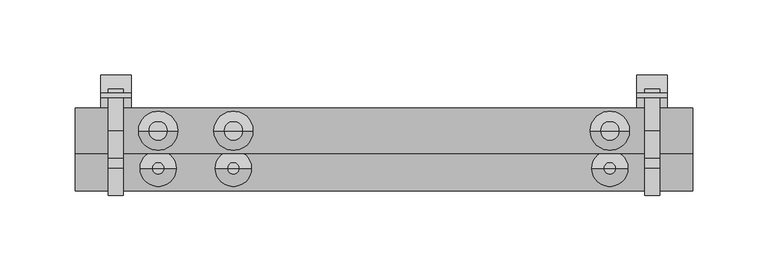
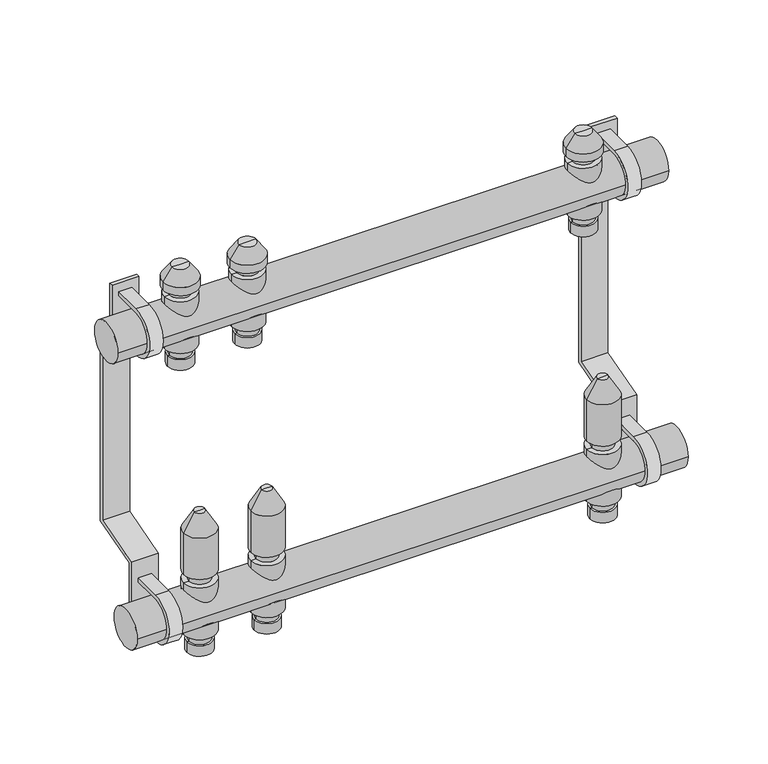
"""IFC4 building model written with IfcOpenShell, lengths in millimetres: valve geometry, PL CZ_Manifold_FT-VA : 07 circuits."""

from ifc_helpers import new_model, si_unit, point, frame, frame_2d, origin, origin_2d, place, context, project, spatial, polyline, circle_curve, trimmed, segment, composite_curve, outline, extrude, source, transform, mapped, element, save
from ifc_brep_helpers import plane_surface, cylinder_surface, revolved_surface, advanced_brep


def valve_f5936556(model_context):
    return source(origin(), model_context, "Body", "SolidModel", [
        advanced_brep(
        [(78.5, 0.0, -35.11267), (97.5, 0.0, -35.11267), (88.0, 0.0, -35.11267), (78.5, 0.0, -27.0369646), (97.5, 0.0, -27.0369646), (80.0, 0.0, -27.0369646), (96.0, 0.0, -27.0369646), (80.0, 0.0, -20.330253), (96.0, 0.0, -20.330253), (76.0, 0.0, -20.330253), (100.0, 0.0, -20.330253), (76.0, 0.0, 20.330253), (100.0, 0.0, 20.330253), (80.0, 0.0, 20.330253), (96.0, 0.0, 20.330253), (80.0, 0.0, 27.0474786), (96.0, 0.0, 27.0474786), (76.0, 0.0, 27.0474786), (100.0, 0.0, 27.0474786), (76.0, 0.0, 59.4084325), (100.0, 0.0, 59.4084325), (84.0, 0.0, 73.264839), (92.0, 0.0, 73.264839), (88.0, 0.0, 73.264839)],
        [
            (0, 1, circle_curve(frame((88.0, 0.0, -35.11267), z_axis=(0.0, 0.0, -1.0), x_axis=(1.0, 0.0, 0.0)), 9.5)),
            (1, 2),
            (2, 0),
            (1, 0, circle_curve(frame((88.0, 0.0, -35.11267), z_axis=(0.0, 0.0, -1.0), x_axis=(1.0, 0.0, 0.0)), 9.5)),
            (3, 4, circle_curve(frame((88.0, 0.0, -27.0369646), z_axis=(0.0, 0.0, -1.0), x_axis=(1.0, 0.0, 0.0)), 9.5)),
            (4, 1),
            (0, 3),
            (4, 3, circle_curve(frame((88.0, 0.0, -27.0369646), z_axis=(0.0, 0.0, -1.0), x_axis=(1.0, 0.0, 0.0)), 9.5)),
            (5, 6, circle_curve(frame((88.0, 0.0, -27.0369646), z_axis=(0.0, 0.0, -1.0), x_axis=(1.0, 0.0, 0.0)), 8.0)),
            (6, 4),
            (3, 5),
            (6, 5, circle_curve(frame((88.0, 0.0, -27.0369646), z_axis=(0.0, 0.0, -1.0), x_axis=(1.0, 0.0, 0.0)), 8.0)),
            (7, 8, circle_curve(frame((88.0, 0.0, -20.330253), z_axis=(0.0, 0.0, -1.0), x_axis=(1.0, 0.0, 0.0)), 8.0)),
            (8, 6),
            (5, 7),
            (8, 7, circle_curve(frame((88.0, 0.0, -20.330253), z_axis=(0.0, 0.0, -1.0), x_axis=(1.0, 0.0, 0.0)), 8.0)),
            (9, 10, circle_curve(frame((88.0, 0.0, -20.330253), z_axis=(0.0, 0.0, -1.0), x_axis=(1.0, 0.0, 0.0)), 12.0)),
            (10, 8),
            (7, 9),
            (10, 9, circle_curve(frame((88.0, 0.0, -20.330253), z_axis=(0.0, 0.0, -1.0), x_axis=(1.0, 0.0, 0.0)), 12.0)),
            (11, 12, circle_curve(frame((88.0, 0.0, 20.330253), z_axis=(0.0, 0.0, -1.0), x_axis=(1.0, 0.0, 0.0)), 12.0)),
            (12, 10),
            (9, 11),
            (12, 11, circle_curve(frame((88.0, 0.0, 20.330253), z_axis=(0.0, 0.0, -1.0), x_axis=(1.0, 0.0, 0.0)), 12.0)),
            (13, 14, circle_curve(frame((88.0, 0.0, 20.330253), z_axis=(0.0, 0.0, -1.0), x_axis=(1.0, 0.0, 0.0)), 8.0)),
            (14, 12),
            (11, 13),
            (14, 13, circle_curve(frame((88.0, 0.0, 20.330253), z_axis=(0.0, 0.0, -1.0), x_axis=(1.0, 0.0, 0.0)), 8.0)),
            (15, 16, circle_curve(frame((88.0, 0.0, 27.0474786), z_axis=(0.0, 0.0, -1.0), x_axis=(1.0, 0.0, 0.0)), 8.0)),
            (16, 14),
            (13, 15),
            (16, 15, circle_curve(frame((88.0, 0.0, 27.0474786), z_axis=(0.0, 0.0, -1.0), x_axis=(1.0, 0.0, 0.0)), 8.0)),
            (17, 18, circle_curve(frame((88.0, 0.0, 27.0474786), z_axis=(0.0, 0.0, -1.0), x_axis=(1.0, 0.0, 0.0)), 12.0)),
            (18, 16),
            (15, 17),
            (18, 17, circle_curve(frame((88.0, 0.0, 27.0474786), z_axis=(0.0, 0.0, -1.0), x_axis=(1.0, 0.0, 0.0)), 12.0)),
            (19, 20, circle_curve(frame((88.0, 0.0, 59.4084325), z_axis=(0.0, 0.0, -1.0), x_axis=(1.0, 0.0, 0.0)), 12.0)),
            (20, 18),
            (17, 19),
            (20, 19, circle_curve(frame((88.0, 0.0, 59.4084325), z_axis=(0.0, 0.0, -1.0), x_axis=(1.0, 0.0, 0.0)), 12.0)),
            (21, 22, circle_curve(frame((88.0, 0.0, 73.264839), z_axis=(0.0, 0.0, -1.0), x_axis=(1.0, 0.0, 0.0)), 4.0)),
            (22, 20),
            (19, 21),
            (22, 21, circle_curve(frame((88.0, 0.0, 73.264839), z_axis=(0.0, 0.0, -1.0), x_axis=(1.0, 0.0, 0.0)), 4.0)),
            (23, 22),
            (21, 23),
        ],
        [
            plane_surface(frame((88.0, 0.0, -35.11267), z_axis=(0.0, 0.0, -1.0), x_axis=(1.0, 0.0, 0.0))),
            cylinder_surface(frame((88.0, 0.0, 58.264839), z_axis=(0.0, 0.0, 1.0), x_axis=(1.0, 0.0, 0.0)), 9.5),
            plane_surface(frame((88.0, 0.0, -27.0369646), z_axis=(0.0, 0.0, 1.0), x_axis=(1.0, 0.0, 0.0))),
            cylinder_surface(frame((88.0, 0.0, 58.264839), z_axis=(0.0, 0.0, 1.0), x_axis=(1.0, 0.0, 0.0)), 8.0),
            plane_surface(frame((88.0, 0.0, -20.330253), z_axis=(0.0, 0.0, -1.0), x_axis=(1.0, 0.0, 0.0))),
            cylinder_surface(frame((88.0, 0.0, 58.264839), z_axis=(0.0, 0.0, 1.0), x_axis=(1.0, 0.0, 0.0)), 12.0),
            plane_surface(frame((88.0, 0.0, 20.330253), z_axis=(0.0, 0.0, 1.0), x_axis=(1.0, 0.0, 0.0))),
            plane_surface(frame((88.0, 0.0, 27.0474786), z_axis=(0.0, 0.0, -1.0), x_axis=(1.0, 0.0, 0.0))),
            revolved_surface(polyline([(100.0, 0.0, 59.4084325), (92.0, 0.0, 73.264839)]), (88.0, 0.0, 58.264839), (0.0, 0.0, 1.0)),
            plane_surface(frame((88.0, 0.0, 73.264839), z_axis=(0.0, 0.0, 1.0), x_axis=(1.0, 0.0, 0.0))),
        ],
        [
            (0, [[1, 2, 3]]),
            (0, [[4, -3, -2]]),
            (1, [[5, 6, -1, 7]]),
            (1, [[8, -7, -4, -6]]),
            (2, [[9, 10, -5, 11]]),
            (2, [[12, -11, -8, -10]]),
            (3, [[13, 14, -9, 15]]),
            (3, [[16, -15, -12, -14]]),
            (4, [[17, 18, -13, 19]]),
            (4, [[20, -19, -16, -18]]),
            (5, [[21, 22, -17, 23]]),
            (5, [[24, -23, -20, -22]]),
            (6, [[25, 26, -21, 27]]),
            (6, [[28, -27, -24, -26]]),
            (3, [[29, 30, -25, 31]]),
            (3, [[32, -31, -28, -30]]),
            (7, [[33, 34, -29, 35]]),
            (7, [[36, -35, -32, -34]]),
            (5, [[37, 38, -33, 39]]),
            (5, [[40, -39, -36, -38]]),
            (8, [[41, 42, -37, 43]]),
            (8, [[44, -43, -40, -42]]),
            (9, [[45, -41, 46]]),
            (9, [[-46, -44, -45]]),
        ],
    ),
        advanced_brep(
        [(78.5, 25.0, 174.88733), (97.5, 25.0, 174.88733), (88.0, 25.0, 174.88733), (78.5, 25.0, 182.9630354), (97.5, 25.0, 182.9630354), (80.0, 25.0, 182.9630354), (96.0, 25.0, 182.9630354), (80.0, 25.0, 189.669747), (96.0, 25.0, 189.669747), (76.0, 25.0, 189.669747), (100.0, 25.0, 189.669747), (76.0, 25.0, 230.330253), (100.0, 25.0, 230.330253), (80.0, 25.0, 230.330253), (96.0, 25.0, 230.330253), (80.0, 25.0, 236.0474786), (96.0, 25.0, 236.0474786), (75.0, 25.0, 236.0474786), (101.0, 25.0, 236.0474786), (75.0, 25.0, 242.337955), (101.0, 25.0, 242.337955), (81.6551779, 25.0, 251.842534), (94.3448221, 25.0, 251.842534), (88.0, 25.0, 251.842534)],
        [
            (0, 1, circle_curve(frame((88.0, 25.0, 174.88733), z_axis=(0.0, 0.0, -1.0), x_axis=(1.0, 0.0, 0.0)), 9.5)),
            (1, 2),
            (2, 0),
            (1, 0, circle_curve(frame((88.0, 25.0, 174.88733), z_axis=(0.0, 0.0, -1.0), x_axis=(1.0, 0.0, 0.0)), 9.5)),
            (3, 4, circle_curve(frame((88.0, 25.0, 182.9630354), z_axis=(0.0, 0.0, -1.0), x_axis=(1.0, 0.0, 0.0)), 9.5)),
            (4, 1),
            (0, 3),
            (4, 3, circle_curve(frame((88.0, 25.0, 182.9630354), z_axis=(0.0, 0.0, -1.0), x_axis=(1.0, 0.0, 0.0)), 9.5)),
            (5, 6, circle_curve(frame((88.0, 25.0, 182.9630354), z_axis=(0.0, 0.0, -1.0), x_axis=(1.0, 0.0, 0.0)), 8.0)),
            (6, 4),
            (3, 5),
            (6, 5, circle_curve(frame((88.0, 25.0, 182.9630354), z_axis=(0.0, 0.0, -1.0), x_axis=(1.0, 0.0, 0.0)), 8.0)),
            (7, 8, circle_curve(frame((88.0, 25.0, 189.669747), z_axis=(0.0, 0.0, -1.0), x_axis=(1.0, 0.0, 0.0)), 8.0)),
            (8, 6),
            (5, 7),
            (8, 7, circle_curve(frame((88.0, 25.0, 189.669747), z_axis=(0.0, 0.0, -1.0), x_axis=(1.0, 0.0, 0.0)), 8.0)),
            (9, 10, circle_curve(frame((88.0, 25.0, 189.669747), z_axis=(0.0, 0.0, -1.0), x_axis=(1.0, 0.0, 0.0)), 12.0)),
            (10, 8),
            (7, 9),
            (10, 9, circle_curve(frame((88.0, 25.0, 189.669747), z_axis=(0.0, 0.0, -1.0), x_axis=(1.0, 0.0, 0.0)), 12.0)),
            (11, 12, circle_curve(frame((88.0, 25.0, 230.330253), z_axis=(0.0, 0.0, -1.0), x_axis=(1.0, 0.0, 0.0)), 12.0)),
            (12, 10),
            (9, 11),
            (12, 11, circle_curve(frame((88.0, 25.0, 230.330253), z_axis=(0.0, 0.0, -1.0), x_axis=(1.0, 0.0, 0.0)), 12.0)),
            (13, 14, circle_curve(frame((88.0, 25.0, 230.330253), z_axis=(0.0, 0.0, -1.0), x_axis=(1.0, 0.0, 0.0)), 8.0)),
            (14, 12),
            (11, 13),
            (14, 13, circle_curve(frame((88.0, 25.0, 230.330253), z_axis=(0.0, 0.0, -1.0), x_axis=(1.0, 0.0, 0.0)), 8.0)),
            (15, 16, circle_curve(frame((88.0, 25.0, 236.0474786), z_axis=(0.0, 0.0, -1.0), x_axis=(1.0, 0.0, 0.0)), 8.0)),
            (16, 14),
            (13, 15),
            (16, 15, circle_curve(frame((88.0, 25.0, 236.0474786), z_axis=(0.0, 0.0, -1.0), x_axis=(1.0, 0.0, 0.0)), 8.0)),
            (17, 18, circle_curve(frame((88.0, 25.0, 236.0474786), z_axis=(0.0, 0.0, -1.0), x_axis=(1.0, 0.0, 0.0)), 13.0)),
            (18, 16),
            (15, 17),
            (18, 17, circle_curve(frame((88.0, 25.0, 236.0474786), z_axis=(0.0, 0.0, -1.0), x_axis=(1.0, 0.0, 0.0)), 13.0)),
            (19, 20, circle_curve(frame((88.0, 25.0, 242.337955), z_axis=(0.0, 0.0, -1.0), x_axis=(1.0, 0.0, 0.0)), 13.0)),
            (20, 18),
            (17, 19),
            (20, 19, circle_curve(frame((88.0, 25.0, 242.337955), z_axis=(0.0, 0.0, -1.0), x_axis=(1.0, 0.0, 0.0)), 13.0)),
            (21, 22, circle_curve(frame((88.0, 25.0, 251.842534), z_axis=(0.0, 0.0, -1.0), x_axis=(1.0, 0.0, 0.0)), 6.3448221)),
            (22, 20),
            (19, 21),
            (22, 21, circle_curve(frame((88.0, 25.0, 251.842534), z_axis=(0.0, 0.0, -1.0), x_axis=(1.0, 0.0, 0.0)), 6.3448221)),
            (23, 22),
            (21, 23),
        ],
        [
            plane_surface(frame((88.0, 25.0, 174.88733), z_axis=(0.0, 0.0, -1.0), x_axis=(1.0, 0.0, 0.0))),
            cylinder_surface(frame((88.0, 25.0, 247.7026565), z_axis=(0.0, 0.0, 1.0), x_axis=(1.0, 0.0, 0.0)), 9.5),
            plane_surface(frame((88.0, 25.0, 182.9630354), z_axis=(0.0, 0.0, 1.0), x_axis=(1.0, 0.0, 0.0))),
            cylinder_surface(frame((88.0, 25.0, 247.7026565), z_axis=(0.0, 0.0, 1.0), x_axis=(1.0, 0.0, 0.0)), 8.0),
            plane_surface(frame((88.0, 25.0, 189.669747), z_axis=(0.0, 0.0, -1.0), x_axis=(1.0, 0.0, 0.0))),
            cylinder_surface(frame((88.0, 25.0, 247.7026565), z_axis=(0.0, 0.0, 1.0), x_axis=(1.0, 0.0, 0.0)), 12.0),
            plane_surface(frame((88.0, 25.0, 230.330253), z_axis=(0.0, 0.0, 1.0), x_axis=(1.0, 0.0, 0.0))),
            plane_surface(frame((88.0, 25.0, 236.0474786), z_axis=(0.0, 0.0, -1.0), x_axis=(1.0, 0.0, 0.0))),
            cylinder_surface(frame((88.0, 25.0, 247.7026565), z_axis=(0.0, 0.0, 1.0), x_axis=(1.0, 0.0, 0.0)), 13.0),
            revolved_surface(polyline([(101.0, 25.0, 242.337955), (94.3448221, 25.0, 251.842534)]), (88.0, 25.0, 247.7026565), (0.0, 0.0, 1.0)),
            plane_surface(frame((88.0, 25.0, 251.842534), z_axis=(0.0, 0.0, 1.0), x_axis=(1.0, 0.0, 0.0))),
        ],
        [
            (0, [[1, 2, 3]]),
            (0, [[4, -3, -2]]),
            (1, [[5, 6, -1, 7]]),
            (1, [[8, -7, -4, -6]]),
            (2, [[9, 10, -5, 11]]),
            (2, [[12, -11, -8, -10]]),
            (3, [[13, 14, -9, 15]]),
            (3, [[16, -15, -12, -14]]),
            (4, [[17, 18, -13, 19]]),
            (4, [[20, -19, -16, -18]]),
            (5, [[21, 22, -17, 23]]),
            (5, [[24, -23, -20, -22]]),
            (6, [[25, 26, -21, 27]]),
            (6, [[28, -27, -24, -26]]),
            (3, [[29, 30, -25, 31]]),
            (3, [[32, -31, -28, -30]]),
            (7, [[33, 34, -29, 35]]),
            (7, [[36, -35, -32, -34]]),
            (8, [[37, 38, -33, 39]]),
            (8, [[40, -39, -36, -38]]),
            (9, [[41, 42, -37, 43]]),
            (9, [[44, -43, -40, -42]]),
            (10, [[45, -41, 46]]),
            (10, [[-46, -44, -45]]),
        ],
    ),
        advanced_brep(
        [(328.5, 0.0, -35.11267), (347.5, 0.0, -35.11267), (338.0, 0.0, -35.11267), (328.5, 0.0, -27.0369646), (347.5, 0.0, -27.0369646), (330.0, 0.0, -27.0369646), (346.0, 0.0, -27.0369646), (330.0, 0.0, -20.330253), (346.0, 0.0, -20.330253), (326.0, 0.0, -20.330253), (350.0, 0.0, -20.330253), (326.0, 0.0, 20.330253), (350.0, 0.0, 20.330253), (330.0, 0.0, 20.330253), (346.0, 0.0, 20.330253), (330.0, 0.0, 27.0474786), (346.0, 0.0, 27.0474786), (326.0, 0.0, 27.0474786), (350.0, 0.0, 27.0474786), (326.0, 0.0, 59.4084325), (350.0, 0.0, 59.4084325), (334.0, 0.0, 73.264839), (342.0, 0.0, 73.264839), (338.0, 0.0, 73.264839)],
        [
            (0, 1, circle_curve(frame((338.0, 0.0, -35.11267), z_axis=(0.0, 0.0, -1.0), x_axis=(1.0, 0.0, 0.0)), 9.5)),
            (1, 2),
            (2, 0),
            (1, 0, circle_curve(frame((338.0, 0.0, -35.11267), z_axis=(0.0, 0.0, -1.0), x_axis=(1.0, 0.0, 0.0)), 9.5)),
            (3, 4, circle_curve(frame((338.0, 0.0, -27.0369646), z_axis=(0.0, 0.0, -1.0), x_axis=(1.0, 0.0, 0.0)), 9.5)),
            (4, 1),
            (0, 3),
            (4, 3, circle_curve(frame((338.0, 0.0, -27.0369646), z_axis=(0.0, 0.0, -1.0), x_axis=(1.0, 0.0, 0.0)), 9.5)),
            (5, 6, circle_curve(frame((338.0, 0.0, -27.0369646), z_axis=(0.0, 0.0, -1.0), x_axis=(1.0, 0.0, 0.0)), 8.0)),
            (6, 4),
            (3, 5),
            (6, 5, circle_curve(frame((338.0, 0.0, -27.0369646), z_axis=(0.0, 0.0, -1.0), x_axis=(1.0, 0.0, 0.0)), 8.0)),
            (7, 8, circle_curve(frame((338.0, 0.0, -20.330253), z_axis=(0.0, 0.0, -1.0), x_axis=(1.0, 0.0, 0.0)), 8.0)),
            (8, 6),
            (5, 7),
            (8, 7, circle_curve(frame((338.0, 0.0, -20.330253), z_axis=(0.0, 0.0, -1.0), x_axis=(1.0, 0.0, 0.0)), 8.0)),
            (9, 10, circle_curve(frame((338.0, 0.0, -20.330253), z_axis=(0.0, 0.0, -1.0), x_axis=(1.0, 0.0, 0.0)), 12.0)),
            (10, 8),
            (7, 9),
            (10, 9, circle_curve(frame((338.0, 0.0, -20.330253), z_axis=(0.0, 0.0, -1.0), x_axis=(1.0, 0.0, 0.0)), 12.0)),
            (11, 12, circle_curve(frame((338.0, 0.0, 20.330253), z_axis=(0.0, 0.0, -1.0), x_axis=(1.0, 0.0, 0.0)), 12.0)),
            (12, 10),
            (9, 11),
            (12, 11, circle_curve(frame((338.0, 0.0, 20.330253), z_axis=(0.0, 0.0, -1.0), x_axis=(1.0, 0.0, 0.0)), 12.0)),
            (13, 14, circle_curve(frame((338.0, 0.0, 20.330253), z_axis=(0.0, 0.0, -1.0), x_axis=(1.0, 0.0, 0.0)), 8.0)),
            (14, 12),
            (11, 13),
            (14, 13, circle_curve(frame((338.0, 0.0, 20.330253), z_axis=(0.0, 0.0, -1.0), x_axis=(1.0, 0.0, 0.0)), 8.0)),
            (15, 16, circle_curve(frame((338.0, 0.0, 27.0474786), z_axis=(0.0, 0.0, -1.0), x_axis=(1.0, 0.0, 0.0)), 8.0)),
            (16, 14),
            (13, 15),
            (16, 15, circle_curve(frame((338.0, 0.0, 27.0474786), z_axis=(0.0, 0.0, -1.0), x_axis=(1.0, 0.0, 0.0)), 8.0)),
            (17, 18, circle_curve(frame((338.0, 0.0, 27.0474786), z_axis=(0.0, 0.0, -1.0), x_axis=(1.0, 0.0, 0.0)), 12.0)),
            (18, 16),
            (15, 17),
            (18, 17, circle_curve(frame((338.0, 0.0, 27.0474786), z_axis=(0.0, 0.0, -1.0), x_axis=(1.0, 0.0, 0.0)), 12.0)),
            (19, 20, circle_curve(frame((338.0, 0.0, 59.4084325), z_axis=(0.0, 0.0, -1.0), x_axis=(1.0, 0.0, 0.0)), 12.0)),
            (20, 18),
            (17, 19),
            (20, 19, circle_curve(frame((338.0, 0.0, 59.4084325), z_axis=(0.0, 0.0, -1.0), x_axis=(1.0, 0.0, 0.0)), 12.0)),
            (21, 22, circle_curve(frame((338.0, 0.0, 73.264839), z_axis=(0.0, 0.0, -1.0), x_axis=(1.0, 0.0, 0.0)), 4.0)),
            (22, 20),
            (19, 21),
            (22, 21, circle_curve(frame((338.0, 0.0, 73.264839), z_axis=(0.0, 0.0, -1.0), x_axis=(1.0, 0.0, 0.0)), 4.0)),
            (23, 22),
            (21, 23),
        ],
        [
            plane_surface(frame((338.0, 0.0, -35.11267), z_axis=(0.0, 0.0, -1.0), x_axis=(1.0, 0.0, 0.0))),
            cylinder_surface(frame((338.0, 0.0, 58.264839), z_axis=(0.0, 0.0, 1.0), x_axis=(1.0, 0.0, 0.0)), 9.5),
            plane_surface(frame((338.0, 0.0, -27.0369646), z_axis=(0.0, 0.0, 1.0), x_axis=(1.0, 0.0, 0.0))),
            cylinder_surface(frame((338.0, 0.0, 58.264839), z_axis=(0.0, 0.0, 1.0), x_axis=(1.0, 0.0, 0.0)), 8.0),
            plane_surface(frame((338.0, 0.0, -20.330253), z_axis=(0.0, 0.0, -1.0), x_axis=(1.0, 0.0, 0.0))),
            cylinder_surface(frame((338.0, 0.0, 58.264839), z_axis=(0.0, 0.0, 1.0), x_axis=(1.0, 0.0, 0.0)), 12.0),
            plane_surface(frame((338.0, 0.0, 20.330253), z_axis=(0.0, 0.0, 1.0), x_axis=(1.0, 0.0, 0.0))),
            plane_surface(frame((338.0, 0.0, 27.0474786), z_axis=(0.0, 0.0, -1.0), x_axis=(1.0, 0.0, 0.0))),
            revolved_surface(polyline([(350.0, 0.0, 59.4084325), (342.0, 0.0, 73.264839)]), (338.0, 0.0, 58.264839), (0.0, 0.0, 1.0)),
            plane_surface(frame((338.0, 0.0, 73.264839), z_axis=(0.0, 0.0, 1.0), x_axis=(1.0, 0.0, 0.0))),
        ],
        [
            (0, [[1, 2, 3]]),
            (0, [[4, -3, -2]]),
            (1, [[5, 6, -1, 7]]),
            (1, [[8, -7, -4, -6]]),
            (2, [[9, 10, -5, 11]]),
            (2, [[12, -11, -8, -10]]),
            (3, [[13, 14, -9, 15]]),
            (3, [[16, -15, -12, -14]]),
            (4, [[17, 18, -13, 19]]),
            (4, [[20, -19, -16, -18]]),
            (5, [[21, 22, -17, 23]]),
            (5, [[24, -23, -20, -22]]),
            (6, [[25, 26, -21, 27]]),
            (6, [[28, -27, -24, -26]]),
            (3, [[29, 30, -25, 31]]),
            (3, [[32, -31, -28, -30]]),
            (7, [[33, 34, -29, 35]]),
            (7, [[36, -35, -32, -34]]),
            (5, [[37, 38, -33, 39]]),
            (5, [[40, -39, -36, -38]]),
            (8, [[41, 42, -37, 43]]),
            (8, [[44, -43, -40, -42]]),
            (9, [[45, -41, 46]]),
            (9, [[-46, -44, -45]]),
        ],
    ),
        advanced_brep(
        [(328.5, 25.0, 174.88733), (347.5, 25.0, 174.88733), (338.0, 25.0, 174.88733), (328.5, 25.0, 182.9630354), (347.5, 25.0, 182.9630354), (330.0, 25.0, 182.9630354), (346.0, 25.0, 182.9630354), (330.0, 25.0, 189.669747), (346.0, 25.0, 189.669747), (326.0, 25.0, 189.669747), (350.0, 25.0, 189.669747), (326.0, 25.0, 230.330253), (350.0, 25.0, 230.330253), (330.0, 25.0, 230.330253), (346.0, 25.0, 230.330253), (330.0, 25.0, 236.0474786), (346.0, 25.0, 236.0474786), (325.0, 25.0, 236.0474786), (351.0, 25.0, 236.0474786), (325.0, 25.0, 242.337955), (351.0, 25.0, 242.337955), (331.6551779, 25.0, 251.842534), (344.3448221, 25.0, 251.842534), (338.0, 25.0, 251.842534)],
        [
            (0, 1, circle_curve(frame((338.0, 25.0, 174.88733), z_axis=(0.0, 0.0, -1.0), x_axis=(1.0, 0.0, 0.0)), 9.5)),
            (1, 2),
            (2, 0),
            (1, 0, circle_curve(frame((338.0, 25.0, 174.88733), z_axis=(0.0, 0.0, -1.0), x_axis=(1.0, 0.0, 0.0)), 9.5)),
            (3, 4, circle_curve(frame((338.0, 25.0, 182.9630354), z_axis=(0.0, 0.0, -1.0), x_axis=(1.0, 0.0, 0.0)), 9.5)),
            (4, 1),
            (0, 3),
            (4, 3, circle_curve(frame((338.0, 25.0, 182.9630354), z_axis=(0.0, 0.0, -1.0), x_axis=(1.0, 0.0, 0.0)), 9.5)),
            (5, 6, circle_curve(frame((338.0, 25.0, 182.9630354), z_axis=(0.0, 0.0, -1.0), x_axis=(1.0, 0.0, 0.0)), 8.0)),
            (6, 4),
            (3, 5),
            (6, 5, circle_curve(frame((338.0, 25.0, 182.9630354), z_axis=(0.0, 0.0, -1.0), x_axis=(1.0, 0.0, 0.0)), 8.0)),
            (7, 8, circle_curve(frame((338.0, 25.0, 189.669747), z_axis=(0.0, 0.0, -1.0), x_axis=(1.0, 0.0, 0.0)), 8.0)),
            (8, 6),
            (5, 7),
            (8, 7, circle_curve(frame((338.0, 25.0, 189.669747), z_axis=(0.0, 0.0, -1.0), x_axis=(1.0, 0.0, 0.0)), 8.0)),
            (9, 10, circle_curve(frame((338.0, 25.0, 189.669747), z_axis=(0.0, 0.0, -1.0), x_axis=(1.0, 0.0, 0.0)), 12.0)),
            (10, 8),
            (7, 9),
            (10, 9, circle_curve(frame((338.0, 25.0, 189.669747), z_axis=(0.0, 0.0, -1.0), x_axis=(1.0, 0.0, 0.0)), 12.0)),
            (11, 12, circle_curve(frame((338.0, 25.0, 230.330253), z_axis=(0.0, 0.0, -1.0), x_axis=(1.0, 0.0, 0.0)), 12.0)),
            (12, 10),
            (9, 11),
            (12, 11, circle_curve(frame((338.0, 25.0, 230.330253), z_axis=(0.0, 0.0, -1.0), x_axis=(1.0, 0.0, 0.0)), 12.0)),
            (13, 14, circle_curve(frame((338.0, 25.0, 230.330253), z_axis=(0.0, 0.0, -1.0), x_axis=(1.0, 0.0, 0.0)), 8.0)),
            (14, 12),
            (11, 13),
            (14, 13, circle_curve(frame((338.0, 25.0, 230.330253), z_axis=(0.0, 0.0, -1.0), x_axis=(1.0, 0.0, 0.0)), 8.0)),
            (15, 16, circle_curve(frame((338.0, 25.0, 236.0474786), z_axis=(0.0, 0.0, -1.0), x_axis=(1.0, 0.0, 0.0)), 8.0)),
            (16, 14),
            (13, 15),
            (16, 15, circle_curve(frame((338.0, 25.0, 236.0474786), z_axis=(0.0, 0.0, -1.0), x_axis=(1.0, 0.0, 0.0)), 8.0)),
            (17, 18, circle_curve(frame((338.0, 25.0, 236.0474786), z_axis=(0.0, 0.0, -1.0), x_axis=(1.0, 0.0, 0.0)), 13.0)),
            (18, 16),
            (15, 17),
            (18, 17, circle_curve(frame((338.0, 25.0, 236.0474786), z_axis=(0.0, 0.0, -1.0), x_axis=(1.0, 0.0, 0.0)), 13.0)),
            (19, 20, circle_curve(frame((338.0, 25.0, 242.337955), z_axis=(0.0, 0.0, -1.0), x_axis=(1.0, 0.0, 0.0)), 13.0)),
            (20, 18),
            (17, 19),
            (20, 19, circle_curve(frame((338.0, 25.0, 242.337955), z_axis=(0.0, 0.0, -1.0), x_axis=(1.0, 0.0, 0.0)), 13.0)),
            (21, 22, circle_curve(frame((338.0, 25.0, 251.842534), z_axis=(0.0, 0.0, -1.0), x_axis=(1.0, 0.0, 0.0)), 6.3448221)),
            (22, 20),
            (19, 21),
            (22, 21, circle_curve(frame((338.0, 25.0, 251.842534), z_axis=(0.0, 0.0, -1.0), x_axis=(1.0, 0.0, 0.0)), 6.3448221)),
            (23, 22),
            (21, 23),
        ],
        [
            plane_surface(frame((338.0, 25.0, 174.88733), z_axis=(0.0, 0.0, -1.0), x_axis=(1.0, 0.0, 0.0))),
            cylinder_surface(frame((338.0, 25.0, 247.7026565), z_axis=(0.0, 0.0, 1.0), x_axis=(1.0, 0.0, 0.0)), 9.5),
            plane_surface(frame((338.0, 25.0, 182.9630354), z_axis=(0.0, 0.0, 1.0), x_axis=(1.0, 0.0, 0.0))),
            cylinder_surface(frame((338.0, 25.0, 247.7026565), z_axis=(0.0, 0.0, 1.0), x_axis=(1.0, 0.0, 0.0)), 8.0),
            plane_surface(frame((338.0, 25.0, 189.669747), z_axis=(0.0, 0.0, -1.0), x_axis=(1.0, 0.0, 0.0))),
            cylinder_surface(frame((338.0, 25.0, 247.7026565), z_axis=(0.0, 0.0, 1.0), x_axis=(1.0, 0.0, 0.0)), 12.0),
            plane_surface(frame((338.0, 25.0, 230.330253), z_axis=(0.0, 0.0, 1.0), x_axis=(1.0, 0.0, 0.0))),
            plane_surface(frame((338.0, 25.0, 236.0474786), z_axis=(0.0, 0.0, -1.0), x_axis=(1.0, 0.0, 0.0))),
            cylinder_surface(frame((338.0, 25.0, 247.7026565), z_axis=(0.0, 0.0, 1.0), x_axis=(1.0, 0.0, 0.0)), 13.0),
            revolved_surface(polyline([(351.0, 25.0, 242.337955), (344.3448221, 25.0, 251.842534)]), (338.0, 25.0, 247.7026565), (0.0, 0.0, 1.0)),
            plane_surface(frame((338.0, 25.0, 251.842534), z_axis=(0.0, 0.0, 1.0), x_axis=(1.0, 0.0, 0.0))),
        ],
        [
            (0, [[1, 2, 3]]),
            (0, [[4, -3, -2]]),
            (1, [[5, 6, -1, 7]]),
            (1, [[8, -7, -4, -6]]),
            (2, [[9, 10, -5, 11]]),
            (2, [[12, -11, -8, -10]]),
            (3, [[13, 14, -9, 15]]),
            (3, [[16, -15, -12, -14]]),
            (4, [[17, 18, -13, 19]]),
            (4, [[20, -19, -16, -18]]),
            (5, [[21, 22, -17, 23]]),
            (5, [[24, -23, -20, -22]]),
            (6, [[25, 26, -21, 27]]),
            (6, [[28, -27, -24, -26]]),
            (3, [[29, 30, -25, 31]]),
            (3, [[32, -31, -28, -30]]),
            (7, [[33, 34, -29, 35]]),
            (7, [[36, -35, -32, -34]]),
            (8, [[37, 38, -33, 39]]),
            (8, [[40, -39, -36, -38]]),
            (9, [[41, 42, -37, 43]]),
            (9, [[44, -43, -40, -42]]),
            (10, [[45, -41, 46]]),
            (10, [[-46, -44, -45]]),
        ],
    ),
        advanced_brep(
        [(28.5, 25.0, 174.88733), (47.5, 25.0, 174.88733), (38.0, 25.0, 174.88733), (28.5, 25.0, 182.9630354), (47.5, 25.0, 182.9630354), (30.0, 25.0, 182.9630354), (46.0, 25.0, 182.9630354), (30.0, 25.0, 189.669747), (46.0, 25.0, 189.669747), (26.0, 25.0, 189.669747), (50.0, 25.0, 189.669747), (26.0, 25.0, 230.330253), (50.0, 25.0, 230.330253), (30.0, 25.0, 230.330253), (46.0, 25.0, 230.330253), (30.0, 25.0, 236.0474786), (46.0, 25.0, 236.0474786), (25.0, 25.0, 236.0474786), (51.0, 25.0, 236.0474786), (25.0, 25.0, 242.337955), (51.0, 25.0, 242.337955), (31.6551779, 25.0, 251.842534), (44.3448221, 25.0, 251.842534), (38.0, 25.0, 251.842534)],
        [
            (0, 1, circle_curve(frame((38.0, 25.0, 174.88733), z_axis=(0.0, 0.0, -1.0), x_axis=(1.0, 0.0, 0.0)), 9.5)),
            (1, 2),
            (2, 0),
            (1, 0, circle_curve(frame((38.0, 25.0, 174.88733), z_axis=(0.0, 0.0, -1.0), x_axis=(1.0, 0.0, 0.0)), 9.5)),
            (3, 4, circle_curve(frame((38.0, 25.0, 182.9630354), z_axis=(0.0, 0.0, -1.0), x_axis=(1.0, 0.0, 0.0)), 9.5)),
            (4, 1),
            (0, 3),
            (4, 3, circle_curve(frame((38.0, 25.0, 182.9630354), z_axis=(0.0, 0.0, -1.0), x_axis=(1.0, 0.0, 0.0)), 9.5)),
            (5, 6, circle_curve(frame((38.0, 25.0, 182.9630354), z_axis=(0.0, 0.0, -1.0), x_axis=(1.0, 0.0, 0.0)), 8.0)),
            (6, 4),
            (3, 5),
            (6, 5, circle_curve(frame((38.0, 25.0, 182.9630354), z_axis=(0.0, 0.0, -1.0), x_axis=(1.0, 0.0, 0.0)), 8.0)),
            (7, 8, circle_curve(frame((38.0, 25.0, 189.669747), z_axis=(0.0, 0.0, -1.0), x_axis=(1.0, 0.0, 0.0)), 8.0)),
            (8, 6),
            (5, 7),
            (8, 7, circle_curve(frame((38.0, 25.0, 189.669747), z_axis=(0.0, 0.0, -1.0), x_axis=(1.0, 0.0, 0.0)), 8.0)),
            (9, 10, circle_curve(frame((38.0, 25.0, 189.669747), z_axis=(0.0, 0.0, -1.0), x_axis=(1.0, 0.0, 0.0)), 12.0)),
            (10, 8),
            (7, 9),
            (10, 9, circle_curve(frame((38.0, 25.0, 189.669747), z_axis=(0.0, 0.0, -1.0), x_axis=(1.0, 0.0, 0.0)), 12.0)),
            (11, 12, circle_curve(frame((38.0, 25.0, 230.330253), z_axis=(0.0, 0.0, -1.0), x_axis=(1.0, 0.0, 0.0)), 12.0)),
            (12, 10),
            (9, 11),
            (12, 11, circle_curve(frame((38.0, 25.0, 230.330253), z_axis=(0.0, 0.0, -1.0), x_axis=(1.0, 0.0, 0.0)), 12.0)),
            (13, 14, circle_curve(frame((38.0, 25.0, 230.330253), z_axis=(0.0, 0.0, -1.0), x_axis=(1.0, 0.0, 0.0)), 8.0)),
            (14, 12),
            (11, 13),
            (14, 13, circle_curve(frame((38.0, 25.0, 230.330253), z_axis=(0.0, 0.0, -1.0), x_axis=(1.0, 0.0, 0.0)), 8.0)),
            (15, 16, circle_curve(frame((38.0, 25.0, 236.0474786), z_axis=(0.0, 0.0, -1.0), x_axis=(1.0, 0.0, 0.0)), 8.0)),
            (16, 14),
            (13, 15),
            (16, 15, circle_curve(frame((38.0, 25.0, 236.0474786), z_axis=(0.0, 0.0, -1.0), x_axis=(1.0, 0.0, 0.0)), 8.0)),
            (17, 18, circle_curve(frame((38.0, 25.0, 236.0474786), z_axis=(0.0, 0.0, -1.0), x_axis=(1.0, 0.0, 0.0)), 13.0)),
            (18, 16),
            (15, 17),
            (18, 17, circle_curve(frame((38.0, 25.0, 236.0474786), z_axis=(0.0, 0.0, -1.0), x_axis=(1.0, 0.0, 0.0)), 13.0)),
            (19, 20, circle_curve(frame((38.0, 25.0, 242.337955), z_axis=(0.0, 0.0, -1.0), x_axis=(1.0, 0.0, 0.0)), 13.0)),
            (20, 18),
            (17, 19),
            (20, 19, circle_curve(frame((38.0, 25.0, 242.337955), z_axis=(0.0, 0.0, -1.0), x_axis=(1.0, 0.0, 0.0)), 13.0)),
            (21, 22, circle_curve(frame((38.0, 25.0, 251.842534), z_axis=(0.0, 0.0, -1.0), x_axis=(1.0, 0.0, 0.0)), 6.3448221)),
            (22, 20),
            (19, 21),
            (22, 21, circle_curve(frame((38.0, 25.0, 251.842534), z_axis=(0.0, 0.0, -1.0), x_axis=(1.0, 0.0, 0.0)), 6.3448221)),
            (23, 22),
            (21, 23),
        ],
        [
            plane_surface(frame((38.0, 25.0, 174.88733), z_axis=(0.0, 0.0, -1.0), x_axis=(1.0, 0.0, 0.0))),
            cylinder_surface(frame((38.0, 25.0, 247.7026565), z_axis=(0.0, 0.0, 1.0), x_axis=(1.0, 0.0, 0.0)), 9.5),
            plane_surface(frame((38.0, 25.0, 182.9630354), z_axis=(0.0, 0.0, 1.0), x_axis=(1.0, 0.0, 0.0))),
            cylinder_surface(frame((38.0, 25.0, 247.7026565), z_axis=(0.0, 0.0, 1.0), x_axis=(1.0, 0.0, 0.0)), 8.0),
            plane_surface(frame((38.0, 25.0, 189.669747), z_axis=(0.0, 0.0, -1.0), x_axis=(1.0, 0.0, 0.0))),
            cylinder_surface(frame((38.0, 25.0, 247.7026565), z_axis=(0.0, 0.0, 1.0), x_axis=(1.0, 0.0, 0.0)), 12.0),
            plane_surface(frame((38.0, 25.0, 230.330253), z_axis=(0.0, 0.0, 1.0), x_axis=(1.0, 0.0, 0.0))),
            plane_surface(frame((38.0, 25.0, 236.0474786), z_axis=(0.0, 0.0, -1.0), x_axis=(1.0, 0.0, 0.0))),
            cylinder_surface(frame((38.0, 25.0, 247.7026565), z_axis=(0.0, 0.0, 1.0), x_axis=(1.0, 0.0, 0.0)), 13.0),
            revolved_surface(polyline([(51.0, 25.0, 242.337955), (44.3448221, 25.0, 251.842534)]), (38.0, 25.0, 247.7026565), (0.0, 0.0, 1.0)),
            plane_surface(frame((38.0, 25.0, 251.842534), z_axis=(0.0, 0.0, 1.0), x_axis=(1.0, 0.0, 0.0))),
        ],
        [
            (0, [[1, 2, 3]]),
            (0, [[4, -3, -2]]),
            (1, [[5, 6, -1, 7]]),
            (1, [[8, -7, -4, -6]]),
            (2, [[9, 10, -5, 11]]),
            (2, [[12, -11, -8, -10]]),
            (3, [[13, 14, -9, 15]]),
            (3, [[16, -15, -12, -14]]),
            (4, [[17, 18, -13, 19]]),
            (4, [[20, -19, -16, -18]]),
            (5, [[21, 22, -17, 23]]),
            (5, [[24, -23, -20, -22]]),
            (6, [[25, 26, -21, 27]]),
            (6, [[28, -27, -24, -26]]),
            (3, [[29, 30, -25, 31]]),
            (3, [[32, -31, -28, -30]]),
            (7, [[33, 34, -29, 35]]),
            (7, [[36, -35, -32, -34]]),
            (8, [[37, 38, -33, 39]]),
            (8, [[40, -39, -36, -38]]),
            (9, [[41, 42, -37, 43]]),
            (9, [[44, -43, -40, -42]]),
            (10, [[45, -41, 46]]),
            (10, [[-46, -44, -45]]),
        ],
    ),
        advanced_brep(
        [(28.5, 0.0, -35.11267), (47.5, 0.0, -35.11267), (38.0, 0.0, -35.11267), (28.5, 0.0, -27.0369646), (47.5, 0.0, -27.0369646), (30.0, 0.0, -27.0369646), (46.0, 0.0, -27.0369646), (30.0, 0.0, -20.330253), (46.0, 0.0, -20.330253), (26.0, 0.0, -20.330253), (50.0, 0.0, -20.330253), (26.0, 0.0, 20.330253), (50.0, 0.0, 20.330253), (30.0, 0.0, 20.330253), (46.0, 0.0, 20.330253), (30.0, 0.0, 27.0474786), (46.0, 0.0, 27.0474786), (26.0, 0.0, 27.0474786), (50.0, 0.0, 27.0474786), (26.0, 0.0, 59.4084325), (50.0, 0.0, 59.4084325), (34.0, 0.0, 73.264839), (42.0, 0.0, 73.264839), (38.0, 0.0, 73.264839)],
        [
            (0, 1, circle_curve(frame((38.0, 0.0, -35.11267), z_axis=(0.0, 0.0, -1.0), x_axis=(1.0, 0.0, 0.0)), 9.5)),
            (1, 2),
            (2, 0),
            (1, 0, circle_curve(frame((38.0, 0.0, -35.11267), z_axis=(0.0, 0.0, -1.0), x_axis=(1.0, 0.0, 0.0)), 9.5)),
            (3, 4, circle_curve(frame((38.0, 0.0, -27.0369646), z_axis=(0.0, 0.0, -1.0), x_axis=(1.0, 0.0, 0.0)), 9.5)),
            (4, 1),
            (0, 3),
            (4, 3, circle_curve(frame((38.0, 0.0, -27.0369646), z_axis=(0.0, 0.0, -1.0), x_axis=(1.0, 0.0, 0.0)), 9.5)),
            (5, 6, circle_curve(frame((38.0, 0.0, -27.0369646), z_axis=(0.0, 0.0, -1.0), x_axis=(1.0, 0.0, 0.0)), 8.0)),
            (6, 4),
            (3, 5),
            (6, 5, circle_curve(frame((38.0, 0.0, -27.0369646), z_axis=(0.0, 0.0, -1.0), x_axis=(1.0, 0.0, 0.0)), 8.0)),
            (7, 8, circle_curve(frame((38.0, 0.0, -20.330253), z_axis=(0.0, 0.0, -1.0), x_axis=(1.0, 0.0, 0.0)), 8.0)),
            (8, 6),
            (5, 7),
            (8, 7, circle_curve(frame((38.0, 0.0, -20.330253), z_axis=(0.0, 0.0, -1.0), x_axis=(1.0, 0.0, 0.0)), 8.0)),
            (9, 10, circle_curve(frame((38.0, 0.0, -20.330253), z_axis=(0.0, 0.0, -1.0), x_axis=(1.0, 0.0, 0.0)), 12.0)),
            (10, 8),
            (7, 9),
            (10, 9, circle_curve(frame((38.0, 0.0, -20.330253), z_axis=(0.0, 0.0, -1.0), x_axis=(1.0, 0.0, 0.0)), 12.0)),
            (11, 12, circle_curve(frame((38.0, 0.0, 20.330253), z_axis=(0.0, 0.0, -1.0), x_axis=(1.0, 0.0, 0.0)), 12.0)),
            (12, 10),
            (9, 11),
            (12, 11, circle_curve(frame((38.0, 0.0, 20.330253), z_axis=(0.0, 0.0, -1.0), x_axis=(1.0, 0.0, 0.0)), 12.0)),
            (13, 14, circle_curve(frame((38.0, 0.0, 20.330253), z_axis=(0.0, 0.0, -1.0), x_axis=(1.0, 0.0, 0.0)), 8.0)),
            (14, 12),
            (11, 13),
            (14, 13, circle_curve(frame((38.0, 0.0, 20.330253), z_axis=(0.0, 0.0, -1.0), x_axis=(1.0, 0.0, 0.0)), 8.0)),
            (15, 16, circle_curve(frame((38.0, 0.0, 27.0474786), z_axis=(0.0, 0.0, -1.0), x_axis=(1.0, 0.0, 0.0)), 8.0)),
            (16, 14),
            (13, 15),
            (16, 15, circle_curve(frame((38.0, 0.0, 27.0474786), z_axis=(0.0, 0.0, -1.0), x_axis=(1.0, 0.0, 0.0)), 8.0)),
            (17, 18, circle_curve(frame((38.0, 0.0, 27.0474786), z_axis=(0.0, 0.0, -1.0), x_axis=(1.0, 0.0, 0.0)), 12.0)),
            (18, 16),
            (15, 17),
            (18, 17, circle_curve(frame((38.0, 0.0, 27.0474786), z_axis=(0.0, 0.0, -1.0), x_axis=(1.0, 0.0, 0.0)), 12.0)),
            (19, 20, circle_curve(frame((38.0, 0.0, 59.4084325), z_axis=(0.0, 0.0, -1.0), x_axis=(1.0, 0.0, 0.0)), 12.0)),
            (20, 18),
            (17, 19),
            (20, 19, circle_curve(frame((38.0, 0.0, 59.4084325), z_axis=(0.0, 0.0, -1.0), x_axis=(1.0, 0.0, 0.0)), 12.0)),
            (21, 22, circle_curve(frame((38.0, 0.0, 73.264839), z_axis=(0.0, 0.0, -1.0), x_axis=(1.0, 0.0, 0.0)), 4.0)),
            (22, 20),
            (19, 21),
            (22, 21, circle_curve(frame((38.0, 0.0, 73.264839), z_axis=(0.0, 0.0, -1.0), x_axis=(1.0, 0.0, 0.0)), 4.0)),
            (23, 22),
            (21, 23),
        ],
        [
            plane_surface(frame((38.0, 0.0, -35.11267), z_axis=(0.0, 0.0, -1.0), x_axis=(1.0, 0.0, 0.0))),
            cylinder_surface(frame((38.0, 0.0, 58.264839), z_axis=(0.0, 0.0, 1.0), x_axis=(1.0, 0.0, 0.0)), 9.5),
            plane_surface(frame((38.0, 0.0, -27.0369646), z_axis=(0.0, 0.0, 1.0), x_axis=(1.0, 0.0, 0.0))),
            cylinder_surface(frame((38.0, 0.0, 58.264839), z_axis=(0.0, 0.0, 1.0), x_axis=(1.0, 0.0, 0.0)), 8.0),
            plane_surface(frame((38.0, 0.0, -20.330253), z_axis=(0.0, 0.0, -1.0), x_axis=(1.0, 0.0, 0.0))),
            cylinder_surface(frame((38.0, 0.0, 58.264839), z_axis=(0.0, 0.0, 1.0), x_axis=(1.0, 0.0, 0.0)), 12.0),
            plane_surface(frame((38.0, 0.0, 20.330253), z_axis=(0.0, 0.0, 1.0), x_axis=(1.0, 0.0, 0.0))),
            plane_surface(frame((38.0, 0.0, 27.0474786), z_axis=(0.0, 0.0, -1.0), x_axis=(1.0, 0.0, 0.0))),
            revolved_surface(polyline([(50.0, 0.0, 59.4084325), (42.0, 0.0, 73.264839)]), (38.0, 0.0, 58.264839), (0.0, 0.0, 1.0)),
            plane_surface(frame((38.0, 0.0, 73.264839), z_axis=(0.0, 0.0, 1.0), x_axis=(1.0, 0.0, 0.0))),
        ],
        [
            (0, [[1, 2, 3]]),
            (0, [[4, -3, -2]]),
            (1, [[5, 6, -1, 7]]),
            (1, [[8, -7, -4, -6]]),
            (2, [[9, 10, -5, 11]]),
            (2, [[12, -11, -8, -10]]),
            (3, [[13, 14, -9, 15]]),
            (3, [[16, -15, -12, -14]]),
            (4, [[17, 18, -13, 19]]),
            (4, [[20, -19, -16, -18]]),
            (5, [[21, 22, -17, 23]]),
            (5, [[24, -23, -20, -22]]),
            (6, [[25, 26, -21, 27]]),
            (6, [[28, -27, -24, -26]]),
            (3, [[29, 30, -25, 31]]),
            (3, [[32, -31, -28, -30]]),
            (7, [[33, 34, -29, 35]]),
            (7, [[36, -35, -32, -34]]),
            (5, [[37, 38, -33, 39]]),
            (5, [[40, -39, -36, -38]]),
            (8, [[41, 42, -37, 43]]),
            (8, [[44, -43, -40, -42]]),
            (9, [[45, -41, 46]]),
            (9, [[-46, -44, -45]]),
        ],
    ),
        extrude(outline(composite_curve([segment(trimmed(circle_curve(origin_2d(), 15.0), [point((0.0, 15.0))], [point((0.0, -15.0))], True, "CARTESIAN"), True, "CONTINUOUS"), segment(polyline([(0.0, -15.0), (27.6751284, -15.0), (27.6751284, -18.0), (0.0, -18.0)]), True, "CONTINUOUS"), segment(trimmed(circle_curve(origin_2d(), 18.0), [point((0.0, -18.0))], [point((0.0, 18.0))], False, "CARTESIAN"), True, "CONTINUOUS"), segment(polyline([(0.0, 18.0), (27.6751284, 18.0), (27.6751284, 15.0), (0.0, 15.0)]), True, "CONTINUOUS")], self_intersect=False)), frame((361.0, 0.0, 0.0), z_axis=(1.0, 0.0, 0.0), x_axis=(0.0, 1.0, 0.0)), (0.0, 0.0, 1.0), 10.0),
        extrude(outline(composite_curve([segment(trimmed(circle_curve(frame_2d((25.0, 210.0)), 15.0), [point((25.0, 225.0))], [point((25.0, 195.0))], True, "CARTESIAN"), True, "CONTINUOUS"), segment(polyline([(25.0, 195.0), (52.6751284, 195.0), (52.6751284, 192.0), (25.0, 192.0)]), True, "CONTINUOUS"), segment(trimmed(circle_curve(frame_2d((25.0, 210.0)), 18.0), [point((25.0, 192.0))], [point((25.0, 228.0))], False, "CARTESIAN"), True, "CONTINUOUS"), segment(polyline([(25.0, 228.0), (52.6751284, 228.0), (52.6751284, 225.0), (25.0, 225.0)]), True, "CONTINUOUS")], self_intersect=False)), frame((361.0, 0.0, 0.0), z_axis=(1.0, 0.0, 0.0), x_axis=(0.0, 1.0, 0.0)), (0.0, 0.0, 1.0), 10.0),
        extrude(outline(polyline([(62.0, 182.8840762), (62.0, 40.6095793), (25.0, 30.0), (25.0, -30.0), (22.0, -30.0), (22.0, 32.2606622), (59.0, 42.8702414), (59.0, 180.3667773), (47.0, 182.4827011), (47.0, 235.0), (50.0, 235.0), (50.0, 185.0), (62.0, 182.8840762)])), frame((356.0, 0.0, 0.0), z_axis=(1.0, 0.0, 0.0), x_axis=(0.0, 1.0, 0.0)), (0.0, 0.0, 1.0), 20.0),
        extrude(outline(composite_curve([segment(trimmed(circle_curve(origin_2d(), 15.0), [point((0.0, 15.0))], [point((0.0, -15.0))], True, "CARTESIAN"), True, "CONTINUOUS"), segment(polyline([(0.0, -15.0), (27.6751284, -15.0), (27.6751284, -18.0), (0.0, -18.0)]), True, "CONTINUOUS"), segment(trimmed(circle_curve(origin_2d(), 18.0), [point((0.0, -18.0))], [point((0.0, 18.0))], False, "CARTESIAN"), True, "CONTINUOUS"), segment(polyline([(0.0, 18.0), (27.6751284, 18.0), (27.6751284, 15.0), (0.0, 15.0)]), True, "CONTINUOUS")], self_intersect=False)), frame((5.0, 0.0, 0.0), z_axis=(1.0, 0.0, 0.0), x_axis=(0.0, 1.0, 0.0)), (0.0, 0.0, 1.0), 10.0),
        extrude(outline(composite_curve([segment(trimmed(circle_curve(frame_2d((25.0, 210.0)), 15.0), [point((25.0, 225.0))], [point((25.0, 195.0))], True, "CARTESIAN"), True, "CONTINUOUS"), segment(polyline([(25.0, 195.0), (52.6751284, 195.0), (52.6751284, 192.0), (25.0, 192.0)]), True, "CONTINUOUS"), segment(trimmed(circle_curve(frame_2d((25.0, 210.0)), 18.0), [point((25.0, 192.0))], [point((25.0, 228.0))], False, "CARTESIAN"), True, "CONTINUOUS"), segment(polyline([(25.0, 228.0), (52.6751284, 228.0), (52.6751284, 225.0), (25.0, 225.0)]), True, "CONTINUOUS")], self_intersect=False)), frame((5.0, 0.0, 0.0), z_axis=(1.0, 0.0, 0.0), x_axis=(0.0, 1.0, 0.0)), (0.0, 0.0, 1.0), 10.0),
        extrude(outline(polyline([(62.0, 182.8840762), (62.0, 40.6095793), (25.0, 30.0), (25.0, -30.0), (22.0, -30.0), (22.0, 32.2606622), (59.0, 42.8702414), (59.0, 180.3667773), (47.0, 182.4827011), (47.0, 235.0), (50.0, 235.0), (50.0, 185.0), (62.0, 182.8840762)])), frame((0.0, 0.0, 0.0), z_axis=(1.0, 0.0, 0.0), x_axis=(0.0, 1.0, 0.0)), (0.0, 0.0, 1.0), 20.0),
        extrude(outline(composite_curve([segment(trimmed(circle_curve(origin_2d(), 15.0), [point((15.0, 0.0))], [point((-15.0, 0.0))], False, "CARTESIAN"), True, "CONTINUOUS"), segment(trimmed(circle_curve(origin_2d(), 15.0), [point((-15.0, 0.0))], [point((15.0, 0.0))], False, "CARTESIAN"), True, "CONTINUOUS")], self_intersect=False)), frame((-17.0, 0.0, 0.0), z_axis=(1.0, 0.0, 0.0), x_axis=(0.0, 1.0, 0.0)), (0.0, 0.0, 1.0), 410.0),
        extrude(outline(composite_curve([segment(trimmed(circle_curve(frame_2d((25.0, 210.0)), 15.0), [point((40.0, 210.0))], [point((10.0, 210.0))], False, "CARTESIAN"), True, "CONTINUOUS"), segment(trimmed(circle_curve(frame_2d((25.0, 210.0)), 15.0), [point((10.0, 210.0))], [point((40.0, 210.0))], False, "CARTESIAN"), True, "CONTINUOUS")], self_intersect=False)), frame((-17.0, 0.0, 0.0), z_axis=(1.0, 0.0, 0.0), x_axis=(0.0, 1.0, 0.0)), (0.0, 0.0, 1.0), 410.0),
    ])


if __name__ == "__main__":
    model = new_model("IFC4")
    model_context = context("Model", 3, world=origin())
    ifc_project = project(units=[si_unit("LENGTHUNIT", "METRE", prefix="MILLI")], contexts=[model_context])
    site = spatial("IfcSite", under=ifc_project)
    building = spatial("IfcBuilding", under=site)
    placement = place(None, origin())
    valve_shape = valve_f5936556(model_context)
    element("IfcValve", 1, ObjectType="PL CZ_Manifold_FT-VA : 07 circuits", at=placement, inside=building, context=model_context, shape_type="MappedRepresentation", body=[
        mapped(valve_shape, transform((0.0, 0.0, 0.0), x_axis=(1.0, 0.0, 0.0), y_axis=(0.0, 1.0, 0.0), z_axis=(0.0, 0.0, 1.0))),
    ])
    save(model, "model.ifc")
